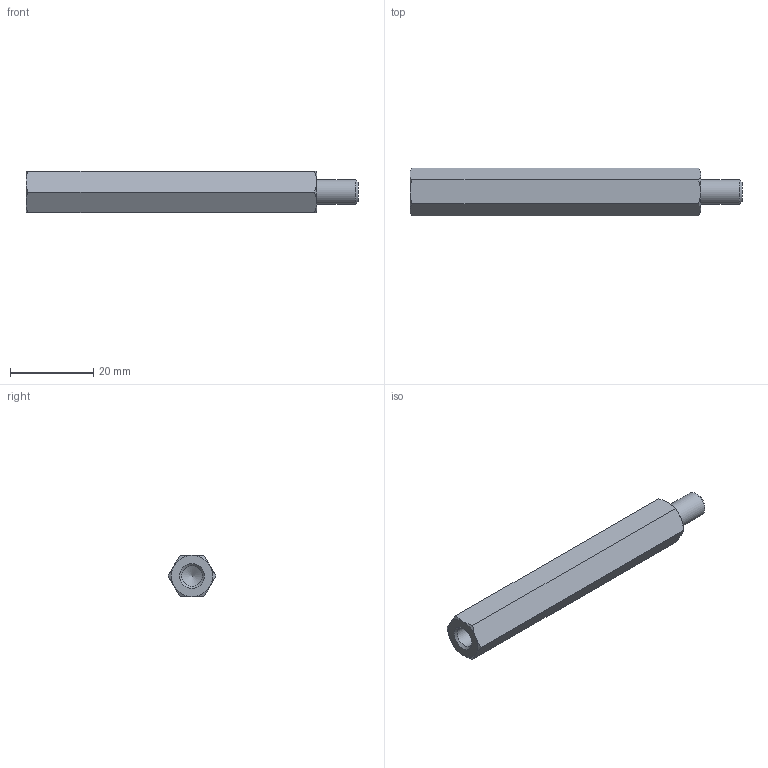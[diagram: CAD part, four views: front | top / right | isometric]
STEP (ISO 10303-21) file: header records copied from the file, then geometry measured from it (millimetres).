
FILE_DESCRIPTION( ( 'STEP AP203' ), '1' );
FILE_NAME( 'C:/Temp/Ganter_Step_05_03_2020/data/3_2/gn6220/gn6220_st/Spacer GN 6220-ST-M6-70-B.stp', '2020-03-13T05:42:49', ( 'License CC BY-ND 4.0' ), ( 'CADENAS' ), ' ', 'PARTsolutions', ' ' );
FILE_SCHEMA( ( 'CONFIG_CONTROL_DESIGN' ) );
Length unit declared in the file: millimetre
Products named in the file (1): _Spacer GN 6220-ST-M6-70-B
Bounding box: 80 x 11.55 x 10 mm (x, y, z)
Volume: 6003 mm3; surface area: 3034 mm2
Topology: 1 solids, 1 shells, 26 faces, 55 edges, 32 vertices
Faces by surface type: cone 15, plane 9, cylinder 2
Full cylindrical faces by diameter (mm): 4.917 x1, 6 x1
Entity records: 762 total; most frequent: CARTESIAN_POINT 226, DIRECTION 96, ORIENTED_EDGE 96, EDGE_CURVE 48, AXIS2_PLACEMENT_3D 45, EDGE_LOOP 32, VERTEX_POINT 31, FACE_OUTER_BOUND 28
